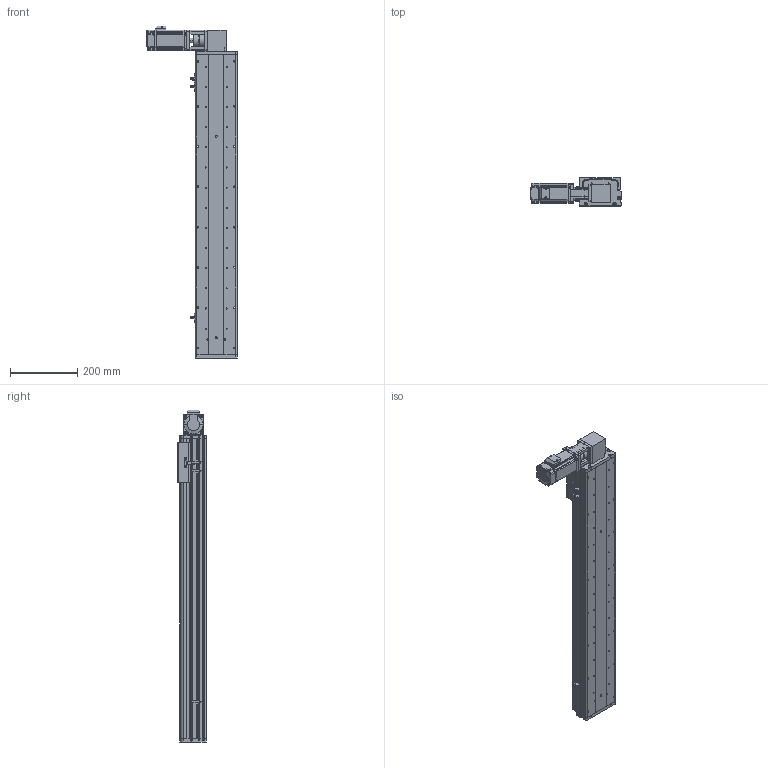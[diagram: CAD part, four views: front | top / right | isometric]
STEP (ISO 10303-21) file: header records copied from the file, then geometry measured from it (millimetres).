
FILE_DESCRIPTION (( 'STEP AP214' ), '1' );
FILE_NAME ('KSD125B-S700-MRT-CM.STEP', '2017-08-07T07:28:05', ( '微软用户' ), ( '微软中国' ), 'SwSTEP 2.0', 'SolidWorks 2014', '' );
FILE_SCHEMA (( 'AUTOMOTIVE_DESIGN' ));
Length unit declared in the file: millimetre
Products named in the file (16): 125模组700行程同步带-底板; MHMD042G1CA_2_03; KSD125模组同步带-防撞垫2; CS-34X32-10X14; 100遵鎮湛假蚾啣1 ; 覜茼え68遵圉猾敕; U倰嫖萇假蚾璃; U倰嫖萇EEㄜSX672; KSD125模组同步带-防撞垫1; 100宽安装板同步带带电机座400W,86; 100宽马达安装板同步带右; 前端板-125宽模组同步带; 125模组同步带-尾端板1; KSD125模组同步带-滑动座1; KSD125B-S700-MRT-CM; KSD125模组700行程同步带-防尘盖
Assembly tree (19 placements, depth 2):
  KSD125B-S700-MRT-CM
    KSD125模组同步带-滑动座1
    125模组同步带-尾端板1
    前端板-125宽模组同步带
    100宽马达安装板同步带右
    100宽安装板同步带带电机座400W,86
    KSD125模组同步带-防撞垫1
    U倰嫖萇EEㄜSX672  x3
    U倰嫖萇假蚾璃  x3
    覜茼え68遵圉猾敕
    100遵鎮湛假蚾啣1 
    CS-34X32-10X14
    KSD125模组同步带-防撞垫2
    MHMD042G1CA_2_03
    125模组700行程同步带-底板
    KSD125模组700行程同步带-防尘盖
Bounding box: 269 x 86 x 989 mm (x, y, z)
Volume: 3108439 mm3; surface area: 1035717.1 mm2
Topology: 18 solids, 21 shells, 1674 faces, 4798 edges, 3164 vertices
Faces by surface type: cylinder 869, plane 702, cone 81, bspline 22
Entity records: 58734 total; most frequent: CARTESIAN_POINT 11900, DIRECTION 8593, ORIENTED_EDGE 8116, EDGE_CURVE 4136, AXIS2_PLACEMENT_3D 3189, VERTEX_POINT 2756, VECTOR 2215, LINE 2215
